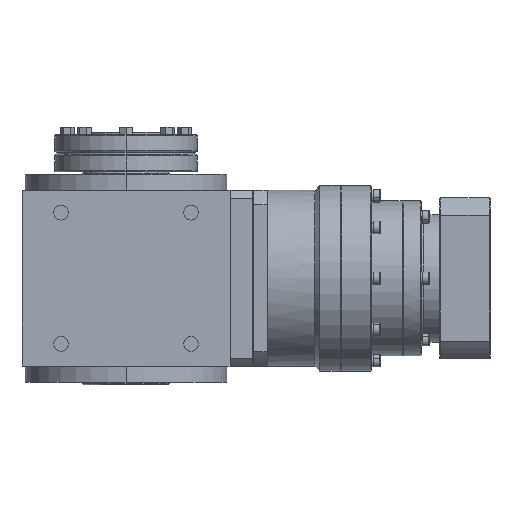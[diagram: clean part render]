
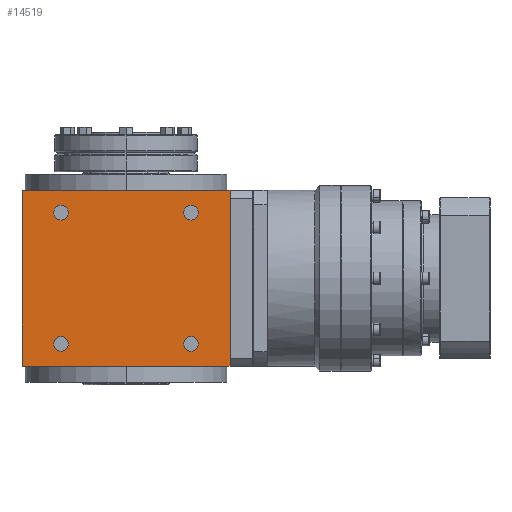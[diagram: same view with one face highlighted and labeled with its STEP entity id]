
A CAD part, left-side view. The second image highlights one B-rep face of the part: STEP entity #14519.
In plain terms, the highlighted planar face has unit normal (-1, 0, 0).
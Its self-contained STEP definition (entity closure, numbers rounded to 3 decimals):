
#115 = DIRECTION ( 'NONE',  ( 1., 0., 0. ) ) ;
#188 = DIRECTION ( 'NONE',  ( 0., -1., 0. ) ) ;
#401 = DIRECTION ( 'NONE',  ( 0., 0., 1. ) ) ;
#736 = EDGE_CURVE ( 'NONE', #18908, #29294, #6753, .T. ) ;
#826 = CARTESIAN_POINT ( 'NONE',  ( -84., -52.5, -53. ) ) ;
#1122 = DIRECTION ( 'NONE',  ( 1., 0., 0. ) ) ;
#1382 = DIRECTION ( 'NONE',  ( 1., 0., 0. ) ) ;
#2372 = EDGE_CURVE ( 'NONE', #28664, #28750, #30724, .T. ) ;
#2515 = CARTESIAN_POINT ( 'NONE',  ( -84., 84., -71. ) ) ;
#2951 = PLANE ( 'NONE',  #30479 ) ;
#3815 = ORIENTED_EDGE ( 'NONE', *, *, #25326, .F. ) ;
#4228 = VERTEX_POINT ( 'NONE', #46725 ) ;
#4240 = DIRECTION ( 'NONE',  ( 0., -1., 0. ) ) ;
#4319 = CARTESIAN_POINT ( 'NONE',  ( -84., -84., -71. ) ) ;
#5479 = CIRCLE ( 'NONE', #38443, 6. ) ;
#6275 = CIRCLE ( 'NONE', #7823, 6. ) ;
#6753 = CIRCLE ( 'NONE', #45904, 6. ) ;
#6971 = ORIENTED_EDGE ( 'NONE', *, *, #40026, .T. ) ;
#7442 = LINE ( 'NONE', #4319, #39837 ) ;
#7823 = AXIS2_PLACEMENT_3D ( 'NONE', #14026, #43346, #32531 ) ;
#8242 = CIRCLE ( 'NONE', #9029, 6. ) ;
#8296 = CARTESIAN_POINT ( 'NONE',  ( -84., 84., -71. ) ) ;
#8569 = CARTESIAN_POINT ( 'NONE',  ( -84., 0., 71. ) ) ;
#8773 = LINE ( 'NONE', #2515, #27934 ) ;
#9029 = AXIS2_PLACEMENT_3D ( 'NONE', #42318, #34398, #37768 ) ;
#9472 = DIRECTION ( 'NONE',  ( 0., 0., 1. ) ) ;
#9478 = ORIENTED_EDGE ( 'NONE', *, *, #736, .T. ) ;
#9868 = VECTOR ( 'NONE', #188, 1000. ) ;
#9911 = FACE_BOUND ( 'NONE', #13194, .T. ) ;
#10011 = DIRECTION ( 'NONE',  ( 1., 0., 0. ) ) ;
#10579 = AXIS2_PLACEMENT_3D ( 'NONE', #32315, #40216, #33020 ) ;
#10710 = ORIENTED_EDGE ( 'NONE', *, *, #35136, .T. ) ;
#11116 = DIRECTION ( 'NONE',  ( 0., 0., 1. ) ) ;
#13194 = EDGE_LOOP ( 'NONE', ( #9478, #31534 ) ) ;
#13505 = FACE_OUTER_BOUND ( 'NONE', #27500, .T. ) ;
#13748 = FACE_BOUND ( 'NONE', #18548, .T. ) ;
#14026 = CARTESIAN_POINT ( 'NONE',  ( -84., 52.5, 53. ) ) ;
#14222 = FACE_BOUND ( 'NONE', #34832, .T. ) ;
#14519 = ADVANCED_FACE ( 'NONE', ( #13748, #14222, #9911, #21207, #13505 ), #2951, .T. ) ;
#14739 = EDGE_CURVE ( 'NONE', #4228, #15909, #8242, .T. ) ;
#15429 = ORIENTED_EDGE ( 'NONE', *, *, #42018, .T. ) ;
#15909 = VERTEX_POINT ( 'NONE', #37281 ) ;
#16129 = AXIS2_PLACEMENT_3D ( 'NONE', #23968, #10011, #43174 ) ;
#16400 = EDGE_CURVE ( 'NONE', #39184, #41442, #7442, .T. ) ;
#18375 = CARTESIAN_POINT ( 'NONE',  ( -84., -52.5, -47. ) ) ;
#18548 = EDGE_LOOP ( 'NONE', ( #28867, #34132 ) ) ;
#18903 = CARTESIAN_POINT ( 'NONE',  ( -84., 84., 71. ) ) ;
#18908 = VERTEX_POINT ( 'NONE', #18375 ) ;
#19637 = CARTESIAN_POINT ( 'NONE',  ( -84., -52.5, 53. ) ) ;
#20640 = CARTESIAN_POINT ( 'NONE',  ( -84., -84., -71. ) ) ;
#21057 = CARTESIAN_POINT ( 'NONE',  ( -84., 52.5, -53. ) ) ;
#21207 = FACE_BOUND ( 'NONE', #24942, .T. ) ;
#22071 = EDGE_CURVE ( 'NONE', #30520, #41442, #26573, .T. ) ;
#22127 = EDGE_CURVE ( 'NONE', #29294, #18908, #40490, .T. ) ;
#22851 = AXIS2_PLACEMENT_3D ( 'NONE', #34023, #1122, #401 ) ;
#23428 = VERTEX_POINT ( 'NONE', #30361 ) ;
#23968 = CARTESIAN_POINT ( 'NONE',  ( -84., 52.5, -53. ) ) ;
#24178 = DIRECTION ( 'NONE',  ( 1., 0., 0. ) ) ;
#24942 = EDGE_LOOP ( 'NONE', ( #6971, #15429 ) ) ;
#25326 = EDGE_CURVE ( 'NONE', #35355, #30520, #8773, .T. ) ;
#26573 = LINE ( 'NONE', #8569, #28984 ) ;
#27500 = EDGE_LOOP ( 'NONE', ( #29339, #40042, #3815, #32537 ) ) ;
#27934 = VECTOR ( 'NONE', #9472, 1000. ) ;
#28242 = CARTESIAN_POINT ( 'NONE',  ( -84., 52.5, 59. ) ) ;
#28664 = VERTEX_POINT ( 'NONE', #41817 ) ;
#28673 = DIRECTION ( 'NONE',  ( -1., 0., 0. ) ) ;
#28750 = VERTEX_POINT ( 'NONE', #35331 ) ;
#28867 = ORIENTED_EDGE ( 'NONE', *, *, #45602, .T. ) ;
#28984 = VECTOR ( 'NONE', #4240, 1000. ) ;
#29294 = VERTEX_POINT ( 'NONE', #29481 ) ;
#29339 = ORIENTED_EDGE ( 'NONE', *, *, #16400, .T. ) ;
#29481 = CARTESIAN_POINT ( 'NONE',  ( -84., -52.5, -59. ) ) ;
#29487 = CARTESIAN_POINT ( 'NONE',  ( -84., 84., -71. ) ) ;
#30361 = CARTESIAN_POINT ( 'NONE',  ( -84., 52.5, 47. ) ) ;
#30369 = CIRCLE ( 'NONE', #47239, 6. ) ;
#30479 = AXIS2_PLACEMENT_3D ( 'NONE', #42839, #28673, #46676 ) ;
#30520 = VERTEX_POINT ( 'NONE', #18903 ) ;
#30724 = CIRCLE ( 'NONE', #16129, 6. ) ;
#31328 = CIRCLE ( 'NONE', #10579, 6. ) ;
#31534 = ORIENTED_EDGE ( 'NONE', *, *, #22127, .T. ) ;
#32315 = CARTESIAN_POINT ( 'NONE',  ( -84., 52.5, 53. ) ) ;
#32531 = DIRECTION ( 'NONE',  ( 0., 0., 1. ) ) ;
#32537 = ORIENTED_EDGE ( 'NONE', *, *, #42457, .T. ) ;
#33020 = DIRECTION ( 'NONE',  ( 0., 0., 1. ) ) ;
#33254 = CARTESIAN_POINT ( 'NONE',  ( -84., -84., 71. ) ) ;
#34023 = CARTESIAN_POINT ( 'NONE',  ( -84., -52.5, -53. ) ) ;
#34132 = ORIENTED_EDGE ( 'NONE', *, *, #14739, .T. ) ;
#34398 = DIRECTION ( 'NONE',  ( 1., 0., 0. ) ) ;
#34832 = EDGE_LOOP ( 'NONE', ( #10710, #43685 ) ) ;
#35136 = EDGE_CURVE ( 'NONE', #28750, #28664, #30369, .T. ) ;
#35331 = CARTESIAN_POINT ( 'NONE',  ( -84., 52.5, -47. ) ) ;
#35355 = VERTEX_POINT ( 'NONE', #8296 ) ;
#36886 = DIRECTION ( 'NONE',  ( 0., 0., 1. ) ) ;
#37281 = CARTESIAN_POINT ( 'NONE',  ( -84., -52.5, 59. ) ) ;
#37768 = DIRECTION ( 'NONE',  ( 0., 0., 1. ) ) ;
#38443 = AXIS2_PLACEMENT_3D ( 'NONE', #19637, #1382, #41952 ) ;
#39184 = VERTEX_POINT ( 'NONE', #20640 ) ;
#39837 = VECTOR ( 'NONE', #41312, 1000. ) ;
#40026 = EDGE_CURVE ( 'NONE', #42737, #23428, #6275, .T. ) ;
#40042 = ORIENTED_EDGE ( 'NONE', *, *, #22071, .F. ) ;
#40216 = DIRECTION ( 'NONE',  ( 1., 0., 0. ) ) ;
#40490 = CIRCLE ( 'NONE', #22851, 6. ) ;
#40508 = LINE ( 'NONE', #29487, #9868 ) ;
#41312 = DIRECTION ( 'NONE',  ( 0., 0., 1. ) ) ;
#41442 = VERTEX_POINT ( 'NONE', #33254 ) ;
#41817 = CARTESIAN_POINT ( 'NONE',  ( -84., 52.5, -59. ) ) ;
#41952 = DIRECTION ( 'NONE',  ( 0., 0., 1. ) ) ;
#42018 = EDGE_CURVE ( 'NONE', #23428, #42737, #31328, .T. ) ;
#42318 = CARTESIAN_POINT ( 'NONE',  ( -84., -52.5, 53. ) ) ;
#42457 = EDGE_CURVE ( 'NONE', #35355, #39184, #40508, .T. ) ;
#42737 = VERTEX_POINT ( 'NONE', #28242 ) ;
#42839 = CARTESIAN_POINT ( 'NONE',  ( -84., 84., -71. ) ) ;
#43174 = DIRECTION ( 'NONE',  ( 0., 0., 1. ) ) ;
#43346 = DIRECTION ( 'NONE',  ( 1., 0., 0. ) ) ;
#43685 = ORIENTED_EDGE ( 'NONE', *, *, #2372, .T. ) ;
#45602 = EDGE_CURVE ( 'NONE', #15909, #4228, #5479, .T. ) ;
#45904 = AXIS2_PLACEMENT_3D ( 'NONE', #826, #115, #11116 ) ;
#46676 = DIRECTION ( 'NONE',  ( 0., 0., 1. ) ) ;
#46725 = CARTESIAN_POINT ( 'NONE',  ( -84., -52.5, 47. ) ) ;
#47239 = AXIS2_PLACEMENT_3D ( 'NONE', #21057, #24178, #36886 ) ;
